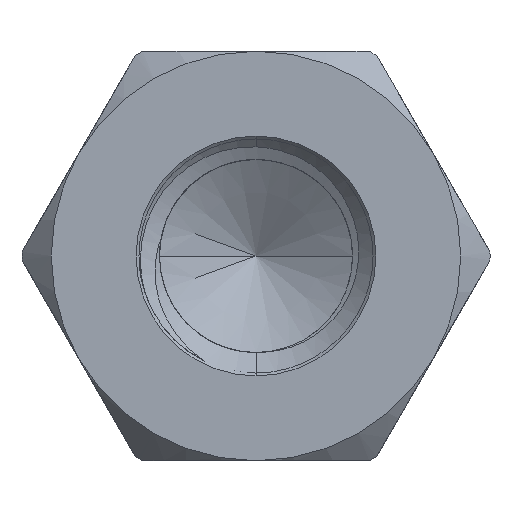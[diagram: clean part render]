
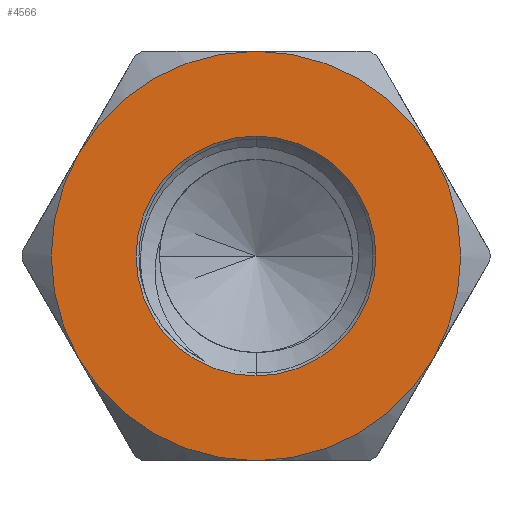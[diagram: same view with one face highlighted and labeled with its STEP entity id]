
A CAD part, front view. The second image highlights one B-rep face of the part: STEP entity #4566.
In plain terms, the highlighted planar face has unit normal (0, -1, 0).
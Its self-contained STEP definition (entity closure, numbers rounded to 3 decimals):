
#44 = FACE_OUTER_BOUND ( 'NONE', #7618, .T. ) ;
#239 = EDGE_CURVE ( 'NONE', #8524, #7747, #1350, .T. ) ;
#242 = CIRCLE ( 'NONE', #6741, 3.5 ) ;
#461 = VERTEX_POINT ( 'NONE', #873 ) ;
#779 = AXIS2_PLACEMENT_3D ( 'NONE', #9937, #915, #7507 ) ;
#873 = CARTESIAN_POINT ( 'NONE',  ( 3.031, 0., -1.75 ) ) ;
#915 = DIRECTION ( 'NONE',  ( 0., -1., 0. ) ) ;
#1005 = ORIENTED_EDGE ( 'NONE', *, *, #9063, .T. ) ;
#1083 = CARTESIAN_POINT ( 'NONE',  ( 0., 0., 0. ) ) ;
#1295 = CARTESIAN_POINT ( 'NONE',  ( 0., 0., 0. ) ) ;
#1303 = DIRECTION ( 'NONE',  ( 0., -1., 0. ) ) ;
#1350 = CIRCLE ( 'NONE', #3299, 2.05 ) ;
#1430 = FACE_BOUND ( 'NONE', #2442, .T. ) ;
#1632 = AXIS2_PLACEMENT_3D ( 'NONE', #5863, #7348, #5783 ) ;
#1744 = VERTEX_POINT ( 'NONE', #5519 ) ;
#1955 = CARTESIAN_POINT ( 'NONE',  ( 0., 0., 0. ) ) ;
#2059 = ORIENTED_EDGE ( 'NONE', *, *, #10155, .T. ) ;
#2074 = DIRECTION ( 'NONE',  ( 0., 0., -1. ) ) ;
#2241 = ORIENTED_EDGE ( 'NONE', *, *, #239, .F. ) ;
#2442 = EDGE_LOOP ( 'NONE', ( #6786, #2241 ) ) ;
#2450 = CARTESIAN_POINT ( 'NONE',  ( 0., 0., 0. ) ) ;
#2537 = CIRCLE ( 'NONE', #6529, 2.05 ) ;
#2659 = ORIENTED_EDGE ( 'NONE', *, *, #9478, .T. ) ;
#2732 = DIRECTION ( 'NONE',  ( 0., 0., 1. ) ) ;
#2905 = CARTESIAN_POINT ( 'NONE',  ( 0., 0., 0. ) ) ;
#3275 = ORIENTED_EDGE ( 'NONE', *, *, #5116, .T. ) ;
#3285 = DIRECTION ( 'NONE',  ( 0., 0., -1. ) ) ;
#3299 = AXIS2_PLACEMENT_3D ( 'NONE', #6182, #1303, #2074 ) ;
#3812 = CARTESIAN_POINT ( 'NONE',  ( 0., 0., 3.5 ) ) ;
#4036 = VERTEX_POINT ( 'NONE', #3812 ) ;
#4374 = DIRECTION ( 'NONE',  ( 0., -1., 0. ) ) ;
#4566 = ADVANCED_FACE ( 'NONE', ( #1430, #44 ), #4978, .F. ) ;
#4597 = ORIENTED_EDGE ( 'NONE', *, *, #5018, .T. ) ;
#4978 = PLANE ( 'NONE',  #1632 ) ;
#5018 = EDGE_CURVE ( 'NONE', #1744, #6144, #8404, .T. ) ;
#5116 = EDGE_CURVE ( 'NONE', #7403, #4036, #7261, .T. ) ;
#5181 = CIRCLE ( 'NONE', #6430, 3.5 ) ;
#5302 = DIRECTION ( 'NONE',  ( 0., -1., 0. ) ) ;
#5474 = DIRECTION ( 'NONE',  ( 0., -1., 0. ) ) ;
#5475 = ORIENTED_EDGE ( 'NONE', *, *, #8567, .T. ) ;
#5519 = CARTESIAN_POINT ( 'NONE',  ( -3.031, 0., 1.75 ) ) ;
#5676 = EDGE_CURVE ( 'NONE', #7747, #8524, #2537, .T. ) ;
#5783 = DIRECTION ( 'NONE',  ( 0., 0., 1. ) ) ;
#5863 = CARTESIAN_POINT ( 'NONE',  ( 0., 0., 0. ) ) ;
#5892 = VERTEX_POINT ( 'NONE', #6788 ) ;
#6144 = VERTEX_POINT ( 'NONE', #7037 ) ;
#6182 = CARTESIAN_POINT ( 'NONE',  ( 0., 0., 0. ) ) ;
#6398 = AXIS2_PLACEMENT_3D ( 'NONE', #1295, #4374, #6908 ) ;
#6430 = AXIS2_PLACEMENT_3D ( 'NONE', #1955, #6897, #2732 ) ;
#6529 = AXIS2_PLACEMENT_3D ( 'NONE', #2450, #8144, #3285 ) ;
#6566 = CIRCLE ( 'NONE', #779, 3.5 ) ;
#6741 = AXIS2_PLACEMENT_3D ( 'NONE', #2905, #5302, #7656 ) ;
#6767 = DIRECTION ( 'NONE',  ( 0., 0., 1. ) ) ;
#6786 = ORIENTED_EDGE ( 'NONE', *, *, #5676, .F. ) ;
#6788 = CARTESIAN_POINT ( 'NONE',  ( 0., 0., -3.5 ) ) ;
#6897 = DIRECTION ( 'NONE',  ( 0., -1., 0. ) ) ;
#6908 = DIRECTION ( 'NONE',  ( 0., 0., 1. ) ) ;
#7037 = CARTESIAN_POINT ( 'NONE',  ( -3.031, 0., -1.75 ) ) ;
#7261 = CIRCLE ( 'NONE', #6398, 3.5 ) ;
#7348 = DIRECTION ( 'NONE',  ( 0., 1., 0. ) ) ;
#7403 = VERTEX_POINT ( 'NONE', #8089 ) ;
#7507 = DIRECTION ( 'NONE',  ( 0., 0., 1. ) ) ;
#7547 = CARTESIAN_POINT ( 'NONE',  ( 0., 0., -2.05 ) ) ;
#7618 = EDGE_LOOP ( 'NONE', ( #3275, #1005, #4597, #2659, #5475, #2059 ) ) ;
#7656 = DIRECTION ( 'NONE',  ( 0., 0., -1. ) ) ;
#7747 = VERTEX_POINT ( 'NONE', #7547 ) ;
#7800 = DIRECTION ( 'NONE',  ( 0., 0., 1. ) ) ;
#8089 = CARTESIAN_POINT ( 'NONE',  ( 3.031, 0., 1.75 ) ) ;
#8144 = DIRECTION ( 'NONE',  ( 0., -1., 0. ) ) ;
#8258 = DIRECTION ( 'NONE',  ( 0., -1., 0. ) ) ;
#8379 = CARTESIAN_POINT ( 'NONE',  ( 0., 0., 2.05 ) ) ;
#8404 = CIRCLE ( 'NONE', #8570, 3.5 ) ;
#8524 = VERTEX_POINT ( 'NONE', #8379 ) ;
#8567 = EDGE_CURVE ( 'NONE', #5892, #461, #242, .T. ) ;
#8570 = AXIS2_PLACEMENT_3D ( 'NONE', #1083, #8258, #6767 ) ;
#8704 = CARTESIAN_POINT ( 'NONE',  ( 0., 0., 0. ) ) ;
#9063 = EDGE_CURVE ( 'NONE', #4036, #1744, #6566, .T. ) ;
#9121 = CIRCLE ( 'NONE', #9211, 3.5 ) ;
#9211 = AXIS2_PLACEMENT_3D ( 'NONE', #8704, #5474, #7800 ) ;
#9478 = EDGE_CURVE ( 'NONE', #6144, #5892, #5181, .T. ) ;
#9937 = CARTESIAN_POINT ( 'NONE',  ( 0., 0., 0. ) ) ;
#10155 = EDGE_CURVE ( 'NONE', #461, #7403, #9121, .T. ) ;
